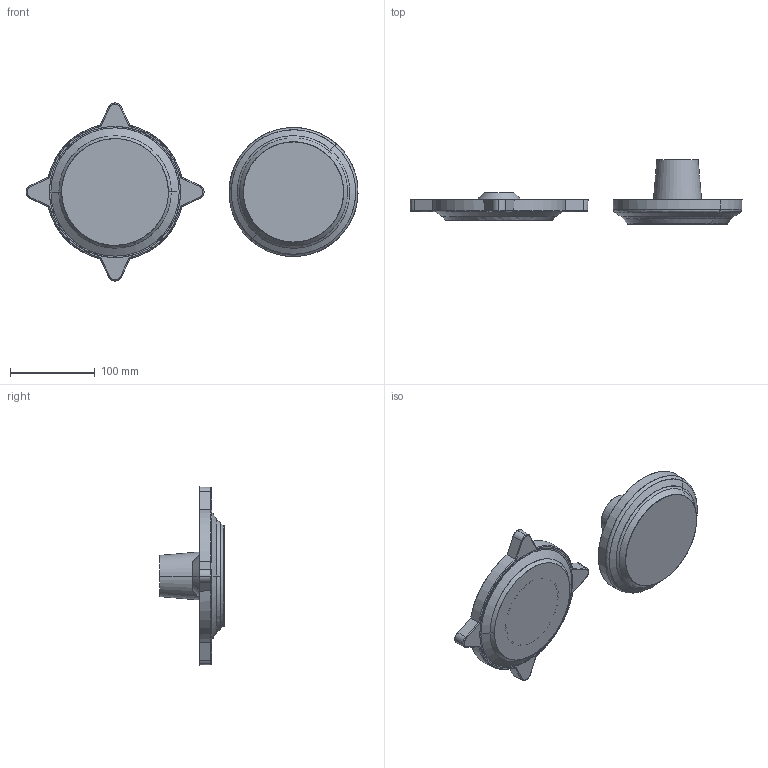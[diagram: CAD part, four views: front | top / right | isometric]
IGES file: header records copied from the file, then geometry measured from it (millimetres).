
Start section: SolidWorks IGES file using analytic representation for surfaces
Global section: file name: C:\Users\admin_local\Desktop\Limoges_06-11-13\Sujet TM E2 2014-N蚓andidat\Dossier technique\Flasques_pour_CN.IGS,; native system: SolidWorks 2010; preprocessor: SolidWorks 2010; author: admin_local; date: 140120.154253; units: millimetre
Bounding box: 390.62 x 75.66 x 209.48 mm (x, y, z)
Surface area: 127120.2 mm2 (no closed solid volume)
Topology: 0 solids, 0 shells, 798 faces, 6255 edges, 6255 vertices
Faces by surface type: bspline 558, revolution 240
